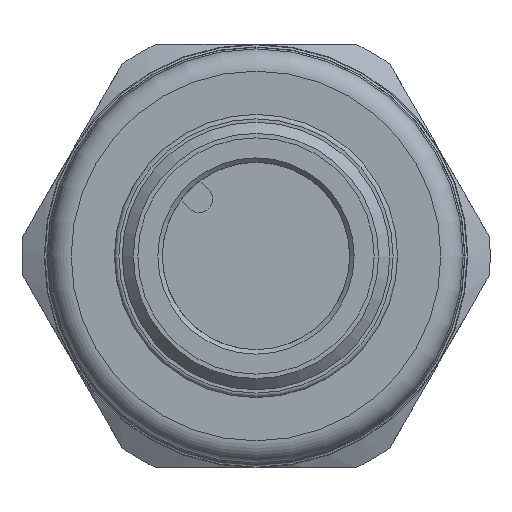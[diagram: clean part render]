
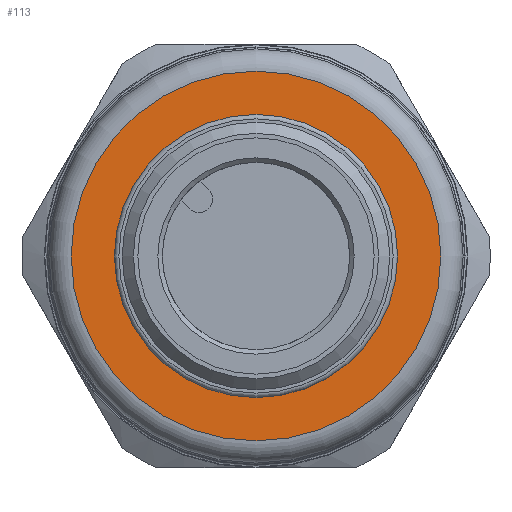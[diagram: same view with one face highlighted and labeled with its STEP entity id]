
A CAD part, left-side view. The second image highlights one B-rep face of the part: STEP entity #113.
In plain terms, the highlighted planar face has unit normal (-1, 0, 0).
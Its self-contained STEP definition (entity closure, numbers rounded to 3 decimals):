
#113 = ADVANCED_FACE( '', ( #241, #242 ), #243, .F. );
#241 = FACE_OUTER_BOUND( '', #424, .T. );
#242 = FACE_BOUND( '', #425, .T. );
#243 = PLANE( '', #426 );
#424 = EDGE_LOOP( '', ( #772 ) );
#425 = EDGE_LOOP( '', ( #773 ) );
#426 = AXIS2_PLACEMENT_3D( '', #774, #775, #776 );
#772 = ORIENTED_EDGE( '', *, *, #1048, .F. );
#773 = ORIENTED_EDGE( '', *, *, #1047, .T. );
#774 = CARTESIAN_POINT( '', ( -48.48, 6.35, 0. ) );
#775 = DIRECTION( '', ( 1., 0., 0. ) );
#776 = DIRECTION( '', ( 0., 0., -1. ) );
#1047 = EDGE_CURVE( '', #1230, #1230, #1231, .T. );
#1048 = EDGE_CURVE( '', #1232, #1232, #1233, .T. );
#1230 = VERTEX_POINT( '', #1623 );
#1231 = CIRCLE( '', #1624, 6.35 );
#1232 = VERTEX_POINT( '', #1625 );
#1233 = CIRCLE( '', #1626, 8.29 );
#1623 = CARTESIAN_POINT( '', ( -48.48, 0., -6.35 ) );
#1624 = AXIS2_PLACEMENT_3D( '', #1826, #1827, #1828 );
#1625 = CARTESIAN_POINT( '', ( -48.48, 0., -8.29 ) );
#1626 = AXIS2_PLACEMENT_3D( '', #1829, #1830, #1831 );
#1826 = CARTESIAN_POINT( '', ( -48.48, 0., 0. ) );
#1827 = DIRECTION( '', ( 1., 0., 0. ) );
#1828 = DIRECTION( '', ( 0., 0., -1. ) );
#1829 = CARTESIAN_POINT( '', ( -48.48, 0., 0. ) );
#1830 = DIRECTION( '', ( 1., 0., 0. ) );
#1831 = DIRECTION( '', ( 0., 0., -1. ) );
